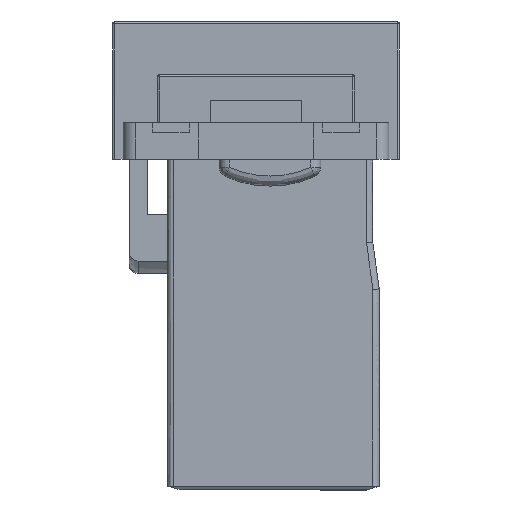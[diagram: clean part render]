
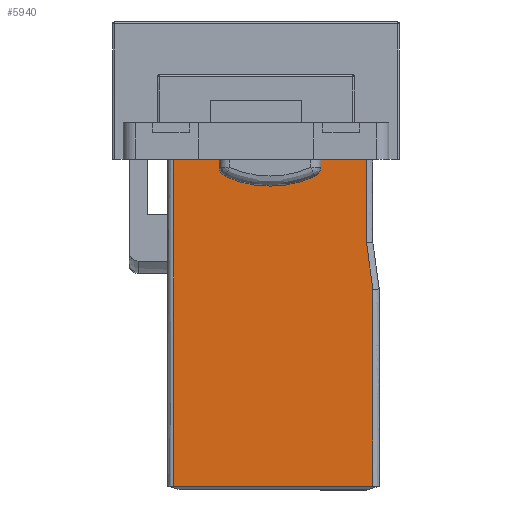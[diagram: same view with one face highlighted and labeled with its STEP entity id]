
A CAD part, left-side view. The second image highlights one B-rep face of the part: STEP entity #5940.
In plain terms, the highlighted free-form (B-spline) face has degree [1, 1] with [2, 2] control points.
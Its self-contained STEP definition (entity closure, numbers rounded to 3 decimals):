
#5743 = VERTEX_POINT('',#5744);
#5744 = CARTESIAN_POINT('',(35.8,14.615,-16.226));
#5756 = EDGE_CURVE('',#5743,#5757,#5759,.T.);
#5757 = VERTEX_POINT('',#5758);
#5758 = CARTESIAN_POINT('',(35.8,14.615,-0.5));
#5759 = B_SPLINE_CURVE_WITH_KNOTS('',5,(#5760,#5761,#5762,#5763,#5764,
    #5765),.UNSPECIFIED.,.F.,.F.,(6,6),(0.,15.726),
  .PIECEWISE_BEZIER_KNOTS.);
#5760 = CARTESIAN_POINT('',(35.8,14.615,-16.226));
#5761 = CARTESIAN_POINT('',(35.8,14.615,-13.08));
#5762 = CARTESIAN_POINT('',(35.8,14.615,-9.935));
#5763 = CARTESIAN_POINT('',(35.8,14.615,-6.79));
#5764 = CARTESIAN_POINT('',(35.8,14.615,-3.645));
#5765 = CARTESIAN_POINT('',(35.8,14.615,-0.5));
#5889 = EDGE_CURVE('',#5757,#5890,#5892,.T.);
#5890 = VERTEX_POINT('',#5891);
#5891 = CARTESIAN_POINT('',(0.,14.615,-0.5));
#5892 = B_SPLINE_CURVE_WITH_KNOTS('',5,(#5893,#5894,#5895,#5896,#5897,
    #5898),.UNSPECIFIED.,.F.,.F.,(6,6),(0.,35.8),
  .PIECEWISE_BEZIER_KNOTS.);
#5893 = CARTESIAN_POINT('',(35.8,14.615,-0.5));
#5894 = CARTESIAN_POINT('',(28.64,14.615,-0.5));
#5895 = CARTESIAN_POINT('',(21.48,14.615,-0.5));
#5896 = CARTESIAN_POINT('',(14.32,14.615,-0.5));
#5897 = CARTESIAN_POINT('',(7.16,14.615,-0.5));
#5898 = CARTESIAN_POINT('',(0.,14.615,-0.5));
#5940 = ADVANCED_FACE('',(#5941,#5987),#6070,.T.);
#5941 = FACE_BOUND('',#5942,.T.);
#5942 = EDGE_LOOP('',(#5943,#5944,#5955,#5966,#5977,#5986));
#5943 = ORIENTED_EDGE('',*,*,#5756,.F.);
#5944 = ORIENTED_EDGE('',*,*,#5945,.F.);
#5945 = EDGE_CURVE('',#5946,#5743,#5948,.T.);
#5946 = VERTEX_POINT('',#5947);
#5947 = CARTESIAN_POINT('',(20.257,14.615,
    -16.226));
#5948 = B_SPLINE_CURVE_WITH_KNOTS('',5,(#5949,#5950,#5951,#5952,#5953,
    #5954),.UNSPECIFIED.,.F.,.F.,(6,6),(0.,15.543),
  .PIECEWISE_BEZIER_KNOTS.);
#5949 = CARTESIAN_POINT('',(20.257,14.615,
    -16.226));
#5950 = CARTESIAN_POINT('',(23.365,14.615,
    -16.226));
#5951 = CARTESIAN_POINT('',(26.474,14.615,
    -16.226));
#5952 = CARTESIAN_POINT('',(29.583,14.615,
    -16.226));
#5953 = CARTESIAN_POINT('',(32.691,14.615,
    -16.226));
#5954 = CARTESIAN_POINT('',(35.8,14.615,-16.226));
#5955 = ORIENTED_EDGE('',*,*,#5956,.F.);
#5956 = EDGE_CURVE('',#5957,#5946,#5959,.T.);
#5957 = VERTEX_POINT('',#5958);
#5958 = CARTESIAN_POINT('',(16.565,14.615,
    -15.722));
#5959 = B_SPLINE_CURVE_WITH_KNOTS('',5,(#5960,#5961,#5962,#5963,#5964,
    #5965),.UNSPECIFIED.,.F.,.F.,(6,6),(0.,3.725),
  .PIECEWISE_BEZIER_KNOTS.);
#5960 = CARTESIAN_POINT('',(16.565,14.615,
    -15.722));
#5961 = CARTESIAN_POINT('',(17.303,14.615,
    -15.823));
#5962 = CARTESIAN_POINT('',(18.042,14.615,
    -15.923));
#5963 = CARTESIAN_POINT('',(18.78,14.615,
    -16.024));
#5964 = CARTESIAN_POINT('',(19.518,14.615,
    -16.125));
#5965 = CARTESIAN_POINT('',(20.257,14.615,
    -16.226));
#5966 = ORIENTED_EDGE('',*,*,#5967,.F.);
#5967 = EDGE_CURVE('',#5968,#5957,#5970,.T.);
#5968 = VERTEX_POINT('',#5969);
#5969 = CARTESIAN_POINT('',(0.,14.615,-15.722));
#5970 = B_SPLINE_CURVE_WITH_KNOTS('',5,(#5971,#5972,#5973,#5974,#5975,
    #5976),.UNSPECIFIED.,.F.,.F.,(6,6),(0.,16.565),
  .PIECEWISE_BEZIER_KNOTS.);
#5971 = CARTESIAN_POINT('',(0.,14.615,-15.722));
#5972 = CARTESIAN_POINT('',(3.313,14.615,
    -15.722));
#5973 = CARTESIAN_POINT('',(6.626,14.615,
    -15.722));
#5974 = CARTESIAN_POINT('',(9.939,14.615,
    -15.722));
#5975 = CARTESIAN_POINT('',(13.252,14.615,
    -15.722));
#5976 = CARTESIAN_POINT('',(16.565,14.615,
    -15.722));
#5977 = ORIENTED_EDGE('',*,*,#5978,.T.);
#5978 = EDGE_CURVE('',#5968,#5890,#5979,.T.);
#5979 = B_SPLINE_CURVE_WITH_KNOTS('',5,(#5980,#5981,#5982,#5983,#5984,
    #5985),.UNSPECIFIED.,.F.,.F.,(6,6),(0.,15.222),
  .PIECEWISE_BEZIER_KNOTS.);
#5980 = CARTESIAN_POINT('',(0.,14.615,-15.722));
#5981 = CARTESIAN_POINT('',(0.,14.615,-12.678));
#5982 = CARTESIAN_POINT('',(0.,14.615,-9.633));
#5983 = CARTESIAN_POINT('',(0.,14.615,-6.589));
#5984 = CARTESIAN_POINT('',(0.,14.615,-3.544));
#5985 = CARTESIAN_POINT('',(0.,14.615,-0.5));
#5986 = ORIENTED_EDGE('',*,*,#5889,.F.);
#5987 = FACE_BOUND('',#5988,.T.);
#5988 = EDGE_LOOP('',(#5989,#6005,#6016,#6027,#6038,#6052));
#5989 = ORIENTED_EDGE('',*,*,#5990,.F.);
#5990 = EDGE_CURVE('',#5991,#5993,#5995,.T.);
#5991 = VERTEX_POINT('',#5992);
#5992 = CARTESIAN_POINT('',(10.615,14.615,
    -4.106));
#5993 = VERTEX_POINT('',#5994);
#5994 = CARTESIAN_POINT('',(11.348,14.615,
    -4.574));
#5995 = B_SPLINE_CURVE_WITH_KNOTS('',5,(#5996,#5997,#5998,#5999,#6000,
    #6001,#6002,#6003,#6004),.UNSPECIFIED.,.F.,.F.,(6,3,6),(0.,
    0.556,1.113),.UNSPECIFIED.);
#5996 = CARTESIAN_POINT('',(10.615,14.615,
    -4.106));
#5997 = CARTESIAN_POINT('',(10.706,14.615,
    -4.107));
#5998 = CARTESIAN_POINT('',(10.798,14.615,
    -4.121));
#5999 = CARTESIAN_POINT('',(10.887,14.615,
    -4.148));
#6000 = CARTESIAN_POINT('',(11.055,14.615,
    -4.225));
#6001 = CARTESIAN_POINT('',(11.196,14.615,
    -4.345));
#6002 = CARTESIAN_POINT('',(11.257,14.615,
    -4.414));
#6003 = CARTESIAN_POINT('',(11.308,14.615,
    -4.491));
#6004 = CARTESIAN_POINT('',(11.348,14.615,
    -4.574));
#6005 = ORIENTED_EDGE('',*,*,#6006,.F.);
#6006 = EDGE_CURVE('',#6007,#5991,#6009,.T.);
#6007 = VERTEX_POINT('',#6008);
#6008 = CARTESIAN_POINT('',(9.714,14.615,
    -4.106));
#6009 = B_SPLINE_CURVE_WITH_KNOTS('',5,(#6010,#6011,#6012,#6013,#6014,
    #6015),.UNSPECIFIED.,.F.,.F.,(6,6),(0.,0.901),
  .PIECEWISE_BEZIER_KNOTS.);
#6010 = CARTESIAN_POINT('',(9.714,14.615,
    -4.106));
#6011 = CARTESIAN_POINT('',(9.894,14.615,
    -4.106));
#6012 = CARTESIAN_POINT('',(10.074,14.615,
    -4.106));
#6013 = CARTESIAN_POINT('',(10.254,14.615,
    -4.106));
#6014 = CARTESIAN_POINT('',(10.434,14.615,
    -4.106));
#6015 = CARTESIAN_POINT('',(10.615,14.615,
    -4.106));
#6016 = ORIENTED_EDGE('',*,*,#6017,.F.);
#6017 = EDGE_CURVE('',#6018,#6007,#6020,.T.);
#6018 = VERTEX_POINT('',#6019);
#6019 = CARTESIAN_POINT('',(9.714,14.615,
    -12.116));
#6020 = B_SPLINE_CURVE_WITH_KNOTS('',5,(#6021,#6022,#6023,#6024,#6025,
    #6026),.UNSPECIFIED.,.F.,.F.,(6,6),(0.,8.009),
  .PIECEWISE_BEZIER_KNOTS.);
#6021 = CARTESIAN_POINT('',(9.714,14.615,
    -12.116));
#6022 = CARTESIAN_POINT('',(9.714,14.615,
    -10.514));
#6023 = CARTESIAN_POINT('',(9.714,14.615,
    -8.912));
#6024 = CARTESIAN_POINT('',(9.714,14.615,
    -7.31));
#6025 = CARTESIAN_POINT('',(9.714,14.615,
    -5.708));
#6026 = CARTESIAN_POINT('',(9.714,14.615,
    -4.106));
#6027 = ORIENTED_EDGE('',*,*,#6028,.F.);
#6028 = EDGE_CURVE('',#6029,#6018,#6031,.T.);
#6029 = VERTEX_POINT('',#6030);
#6030 = CARTESIAN_POINT('',(10.615,14.615,
    -12.116));
#6031 = B_SPLINE_CURVE_WITH_KNOTS('',5,(#6032,#6033,#6034,#6035,#6036,
    #6037),.UNSPECIFIED.,.F.,.F.,(6,6),(0.,0.901),
  .PIECEWISE_BEZIER_KNOTS.);
#6032 = CARTESIAN_POINT('',(10.615,14.615,
    -12.116));
#6033 = CARTESIAN_POINT('',(10.434,14.615,
    -12.116));
#6034 = CARTESIAN_POINT('',(10.254,14.615,
    -12.116));
#6035 = CARTESIAN_POINT('',(10.074,14.615,
    -12.116));
#6036 = CARTESIAN_POINT('',(9.894,14.615,
    -12.116));
#6037 = CARTESIAN_POINT('',(9.714,14.615,
    -12.116));
#6038 = ORIENTED_EDGE('',*,*,#6039,.F.);
#6039 = EDGE_CURVE('',#6040,#6029,#6042,.T.);
#6040 = VERTEX_POINT('',#6041);
#6041 = CARTESIAN_POINT('',(11.348,14.615,
    -11.648));
#6042 = B_SPLINE_CURVE_WITH_KNOTS('',5,(#6043,#6044,#6045,#6046,#6047,
    #6048,#6049,#6050,#6051),.UNSPECIFIED.,.F.,.F.,(6,3,6),(0.,
    0.557,1.114),.UNSPECIFIED.);
#6043 = CARTESIAN_POINT('',(11.348,14.615,
    -11.648));
#6044 = CARTESIAN_POINT('',(11.308,14.615,
    -11.73));
#6045 = CARTESIAN_POINT('',(11.257,14.615,
    -11.807));
#6046 = CARTESIAN_POINT('',(11.196,14.615,
    -11.877));
#6047 = CARTESIAN_POINT('',(11.055,14.615,
    -11.997));
#6048 = CARTESIAN_POINT('',(10.887,14.615,
    -12.074));
#6049 = CARTESIAN_POINT('',(10.798,14.615,
    -12.101));
#6050 = CARTESIAN_POINT('',(10.706,14.615,
    -12.115));
#6051 = CARTESIAN_POINT('',(10.615,14.615,
    -12.116));
#6052 = ORIENTED_EDGE('',*,*,#6053,.F.);
#6053 = EDGE_CURVE('',#5993,#6040,#6054,.T.);
#6054 = B_SPLINE_CURVE_WITH_KNOTS('',5,(#6055,#6056,#6057,#6058,#6059,
    #6060,#6061,#6062,#6063,#6064,#6065,#6066,#6067,#6068,#6069),
  .UNSPECIFIED.,.F.,.F.,(6,3,3,3,6),(0.,0.212,0.424,
    0.636,0.848),.UNSPECIFIED.);
#6055 = CARTESIAN_POINT('',(11.348,14.615,
    -4.574));
#6056 = CARTESIAN_POINT('',(11.498,14.615,
    -4.906));
#6057 = CARTESIAN_POINT('',(11.63,14.615,
    -5.246));
#6058 = CARTESIAN_POINT('',(11.744,14.615,
    -5.593));
#6059 = CARTESIAN_POINT('',(11.936,14.615,
    -6.298));
#6060 = CARTESIAN_POINT('',(12.051,14.615,
    -7.019));
#6061 = CARTESIAN_POINT('',(12.09,14.615,
    -7.382));
#6062 = CARTESIAN_POINT('',(12.129,14.615,
    -8.111));
#6063 = CARTESIAN_POINT('',(12.09,14.615,
    -8.84));
#6064 = CARTESIAN_POINT('',(12.051,14.615,
    -9.203));
#6065 = CARTESIAN_POINT('',(11.936,14.615,
    -9.924));
#6066 = CARTESIAN_POINT('',(11.744,14.615,
    -10.628));
#6067 = CARTESIAN_POINT('',(11.63,14.615,
    -10.975));
#6068 = CARTESIAN_POINT('',(11.498,14.615,
    -11.315));
#6069 = CARTESIAN_POINT('',(11.348,14.615,
    -11.648));
#6070 = B_SPLINE_SURFACE_WITH_KNOTS('',1,1,(
    (#6071,#6072)
    ,(#6073,#6074
    )),.UNSPECIFIED.,.F.,.F.,.F.,(2,2),(2,2),(0.,1.),(0.,2.277),
  .PIECEWISE_BEZIER_KNOTS.);
#6071 = CARTESIAN_POINT('',(0.,14.615,-16.226));
#6072 = CARTESIAN_POINT('',(35.8,14.615,-16.226));
#6073 = CARTESIAN_POINT('',(0.,14.615,-0.5));
#6074 = CARTESIAN_POINT('',(35.8,14.615,-0.5));
